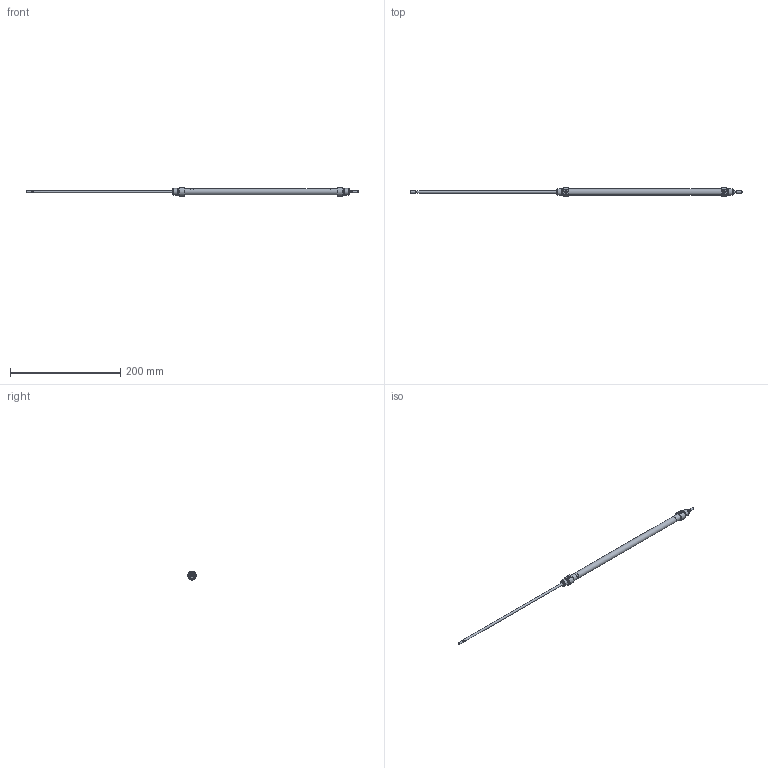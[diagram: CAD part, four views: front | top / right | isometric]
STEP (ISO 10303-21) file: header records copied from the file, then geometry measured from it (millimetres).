
FILE_DESCRIPTION( ( 'STEP AP203' ), '1' );
FILE_NAME( '//expscmdclustefs.cadenas.external/client_exchange/iodir/jobs/output/wkb68273406_no0/STEP/M101-010-0250--__0__2_03.stp', ' ', ( ' ' ), ( ' ' ), 'PSStep 15.0.47', 'PARTsolutions', ' ' );
FILE_SCHEMA( ( 'CONFIG_CONTROL_DESIGN' ) );
Length unit declared in the file: millimetre
Products named in the file (3): M101-010-0250-- [0]; HI_M101-010-0250---[0]-z; HI_M101-010-0250---[0]-k
Assembly tree (2 placements, depth 2):
  M101-010-0250-- [0]
    HI_M101-010-0250---[0]-z
    HI_M101-010-0250---[0]-k
Bounding box: 602 x 15.77 x 14.87 mm (x, y, z)
Volume: 20928.8 mm3; surface area: 29048.3 mm2
Topology: 2 solids, 2 shells, 71 faces, 145 edges, 88 vertices
Faces by surface type: plane 32, cylinder 23, cone 14, torus 2
Full cylindrical faces by diameter (mm): 3.141 x2, 4 x6, 4.134 x2, 10 x2, 10.466 x4, 11.3 x1, 12 x4
Entity records: 1838 total; most frequent: CARTESIAN_POINT 358, DIRECTION 312, ORIENTED_EDGE 212, AXIS2_PLACEMENT_3D 140, EDGE_LOOP 120, EDGE_CURVE 106, FACE_OUTER_BOUND 94, VERTEX_POINT 82
